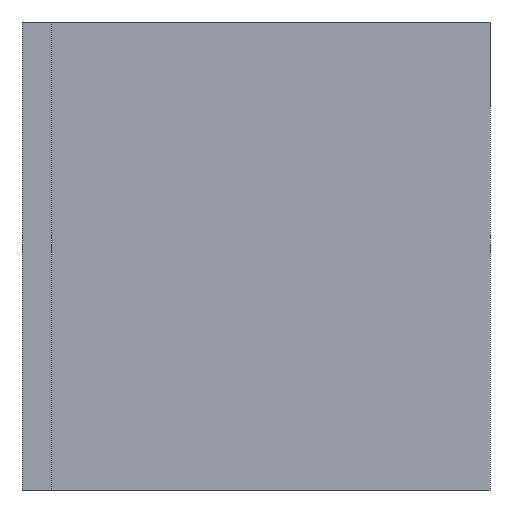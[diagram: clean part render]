
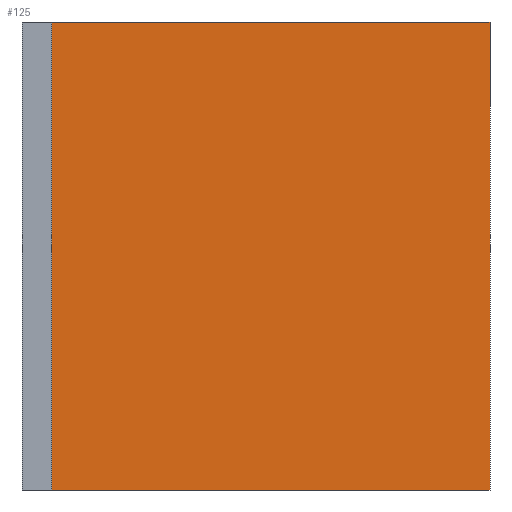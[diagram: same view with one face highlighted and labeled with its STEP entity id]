
A CAD part, front view. The second image highlights one B-rep face of the part: STEP entity #125.
In plain terms, the highlighted planar face has unit normal (0, -1, 0).
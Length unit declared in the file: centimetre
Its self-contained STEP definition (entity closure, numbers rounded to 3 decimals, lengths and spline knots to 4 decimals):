
#27 = DIRECTION ( 'NONE',  ( 0., 1., 0. ) ) ;
#31 = LINE ( 'NONE', #277, #633 ) ;
#61 = CARTESIAN_POINT ( 'NONE',  ( 63.943, 0., 0. ) ) ;
#80 = VERTEX_POINT ( 'NONE', #124 ) ;
#97 = ORIENTED_EDGE ( 'NONE', *, *, #457, .F. ) ;
#124 = CARTESIAN_POINT ( 'NONE',  ( 1000., 0., 1000. ) ) ;
#125 = ADVANCED_FACE ( 'NONE', ( #731 ), #185, .F. ) ;
#136 = CARTESIAN_POINT ( 'NONE',  ( 1000., 0., 0. ) ) ;
#139 = EDGE_CURVE ( 'NONE', #233, #80, #31, .T. ) ;
#151 = CARTESIAN_POINT ( 'NONE',  ( 1000., 0., 1000. ) ) ;
#185 = PLANE ( 'NONE',  #498 ) ;
#198 = EDGE_LOOP ( 'NONE', ( #674, #276, #303, #97 ) ) ;
#213 = LINE ( 'NONE', #644, #597 ) ;
#221 = VERTEX_POINT ( 'NONE', #136 ) ;
#224 = DIRECTION ( 'NONE',  ( 1., 0., 0. ) ) ;
#233 = VERTEX_POINT ( 'NONE', #739 ) ;
#272 = DIRECTION ( 'NONE',  ( 0., 0., 1. ) ) ;
#276 = ORIENTED_EDGE ( 'NONE', *, *, #306, .T. ) ;
#277 = CARTESIAN_POINT ( 'NONE',  ( 0., 0., 1000. ) ) ;
#303 = ORIENTED_EDGE ( 'NONE', *, *, #436, .T. ) ;
#306 = EDGE_CURVE ( 'NONE', #233, #658, #557, .T. ) ;
#317 = CARTESIAN_POINT ( 'NONE',  ( 63.943, 0., 1000. ) ) ;
#336 = DIRECTION ( 'NONE',  ( 1., 0., 0. ) ) ;
#374 = CARTESIAN_POINT ( 'NONE',  ( 0., 0., 1000. ) ) ;
#399 = LINE ( 'NONE', #151, #677 ) ;
#436 = EDGE_CURVE ( 'NONE', #658, #221, #213, .T. ) ;
#457 = EDGE_CURVE ( 'NONE', #80, #221, #399, .T. ) ;
#466 = DIRECTION ( 'NONE',  ( 0., 0., -1. ) ) ;
#498 = AXIS2_PLACEMENT_3D ( 'NONE', #374, #27, #272 ) ;
#557 = LINE ( 'NONE', #317, #595 ) ;
#568 = DIRECTION ( 'NONE',  ( 0., 0., -1. ) ) ;
#595 = VECTOR ( 'NONE', #568, 100. ) ;
#597 = VECTOR ( 'NONE', #224, 100. ) ;
#633 = VECTOR ( 'NONE', #336, 100. ) ;
#644 = CARTESIAN_POINT ( 'NONE',  ( 0., 0., 0. ) ) ;
#658 = VERTEX_POINT ( 'NONE', #61 ) ;
#674 = ORIENTED_EDGE ( 'NONE', *, *, #139, .F. ) ;
#677 = VECTOR ( 'NONE', #466, 100. ) ;
#731 = FACE_OUTER_BOUND ( 'NONE', #198, .T. ) ;
#739 = CARTESIAN_POINT ( 'NONE',  ( 63.943, 0., 1000. ) ) ;
